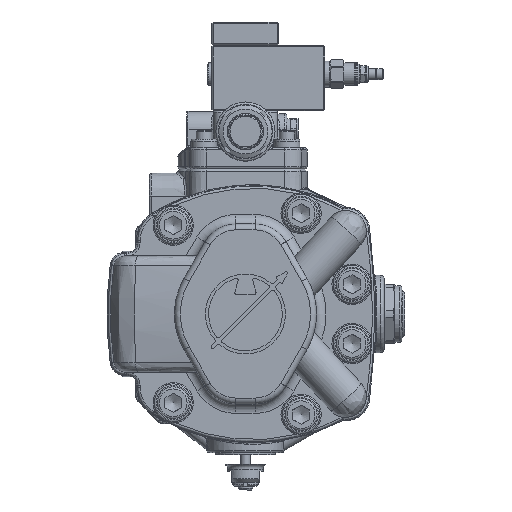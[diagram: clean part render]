
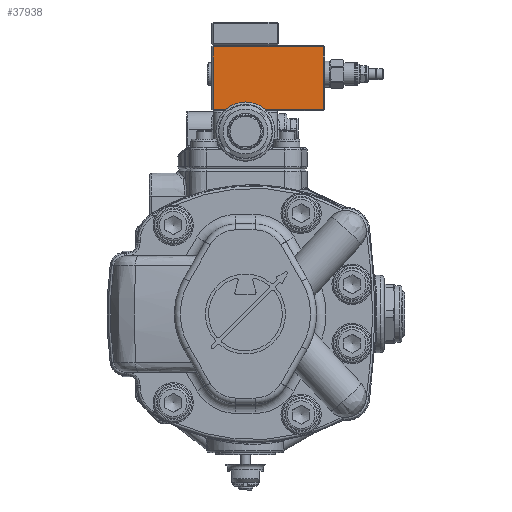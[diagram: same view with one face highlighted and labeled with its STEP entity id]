
A CAD part, front view. The second image highlights one B-rep face of the part: STEP entity #37938.
In plain terms, the highlighted planar face has unit normal (0, -1, 0).
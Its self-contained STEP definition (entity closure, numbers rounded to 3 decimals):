
#2046=LINE('',#55852,#4291);
#2048=LINE('',#55856,#4293);
#2051=LINE('',#55860,#4296);
#2057=LINE('',#55871,#4302);
#4291=VECTOR('',#45233,10.);
#4293=VECTOR('',#45239,10.);
#4296=VECTOR('',#45244,10.);
#4302=VECTOR('',#45260,10.);
#6395=PLANE('',#40474);
#7286=FACE_OUTER_BOUND('',#9573,.T.);
#9573=EDGE_LOOP('',(#25218,#25219,#25220,#25221));
#15187=VERTEX_POINT('',#55824);
#15188=VERTEX_POINT('',#55828);
#15193=VERTEX_POINT('',#55842);
#15195=VERTEX_POINT('',#55847);
#18928=EDGE_CURVE('',#15195,#15193,#2046,.T.);
#18930=EDGE_CURVE('',#15188,#15195,#2048,.T.);
#18933=EDGE_CURVE('',#15193,#15187,#2051,.T.);
#18939=EDGE_CURVE('',#15187,#15188,#2057,.T.);
#25218=ORIENTED_EDGE('',*,*,#18928,.F.);
#25219=ORIENTED_EDGE('',*,*,#18930,.F.);
#25220=ORIENTED_EDGE('',*,*,#18939,.F.);
#25221=ORIENTED_EDGE('',*,*,#18933,.F.);
#37938=ADVANCED_FACE('',(#7286),#6395,.T.);
#40474=AXIS2_PLACEMENT_3D('',#55885,#45277,#45278);
#45233=DIRECTION('',(1.,0.,0.));
#45239=DIRECTION('',(0.,0.,1.));
#45244=DIRECTION('',(0.,0.,-1.));
#45260=DIRECTION('',(-1.,0.,0.));
#45277=DIRECTION('center_axis',(0.,-1.,0.));
#45278=DIRECTION('ref_axis',(0.,0.,
1.));
#55824=CARTESIAN_POINT('',(69.311,-61.312,173.499));
#55828=CARTESIAN_POINT('',(-23.689,-61.312,173.499));
#55842=CARTESIAN_POINT('',(69.311,-61.312,226.499));
#55847=CARTESIAN_POINT('',(-23.689,-61.312,226.499));
#55852=CARTESIAN_POINT('',(-0.939,-61.312,226.499));
#55856=CARTESIAN_POINT('',(-23.689,-61.312,227.499));
#55860=CARTESIAN_POINT('',(69.311,-61.312,227.499));
#55871=CARTESIAN_POINT('',(-0.939,-61.312,173.499));
#55885=CARTESIAN_POINT('Origin',(-24.689,-61.312,227.499));
